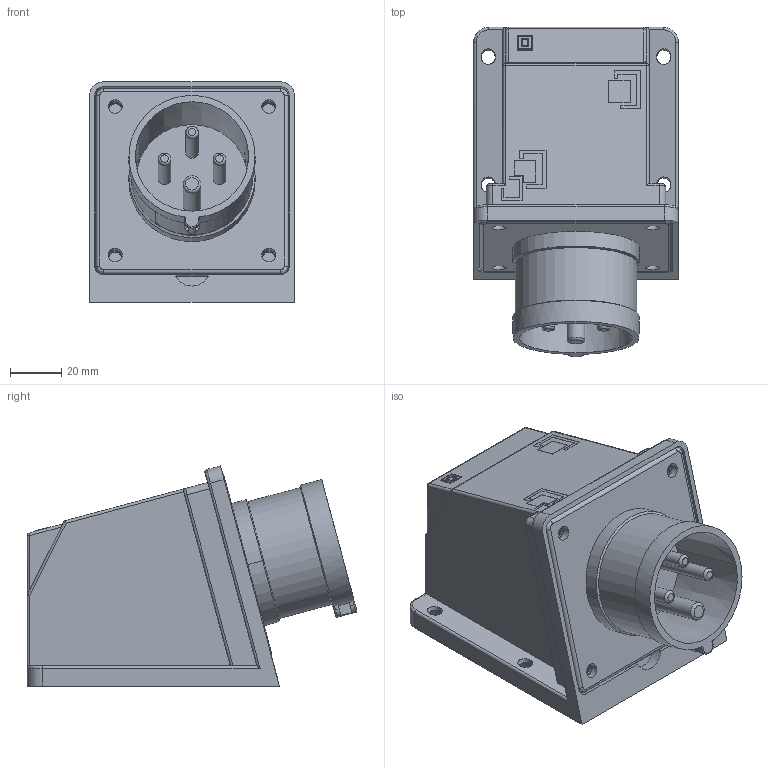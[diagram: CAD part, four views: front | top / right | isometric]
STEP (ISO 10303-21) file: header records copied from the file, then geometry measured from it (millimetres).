
FILE_DESCRIPTION(('FreeCAD Model'),'2;1');
FILE_NAME('Open CASCADE Shape Model','2026-02-04T09:24:09',(''),(''), 'Open CASCADE STEP processor 7.8','FreeCAD','Unknown');
FILE_SCHEMA(('AUTOMOTIVE_DESIGN { 1 0 10303 214 1 1 1 1 }'));
Length unit declared in the file: millimetre
Products named in the file (9): TL3M16443; Tomada; Pino L3; Pino Terrra; Pino L2; Pino L1; Terminais; Base tomada interna; Estrutura corpo
Assembly tree (8 placements, depth 2):
  TL3M16443
    Tomada
    Pino L3
    Pino Terrra
    Pino L2
    Pino L1
    Terminais
    Base tomada interna
    Estrutura corpo
Bounding box: 80 x 128.72 x 85.97 mm (x, y, z)
Volume: 350040.3 mm3; surface area: 88436.7 mm2
Topology: 8 solids, 12 shells, 791 faces, 1992 edges, 1281 vertices
Faces by surface type: plane 460, cylinder 231, torus 58, cone 16, bspline 16, sphere 10
Full cylindrical faces by diameter (mm): 5 x3, 7 x1, 42.5 x2
Entity records: 25863 total; most frequent: CARTESIAN_POINT 6317, DIRECTION 4053, ORIENTED_EDGE 3984, EDGE_CURVE 1992, AXIS2_PLACEMENT_3D 1365, LINE 1323, VECTOR 1323, VERTEX_POINT 1281
